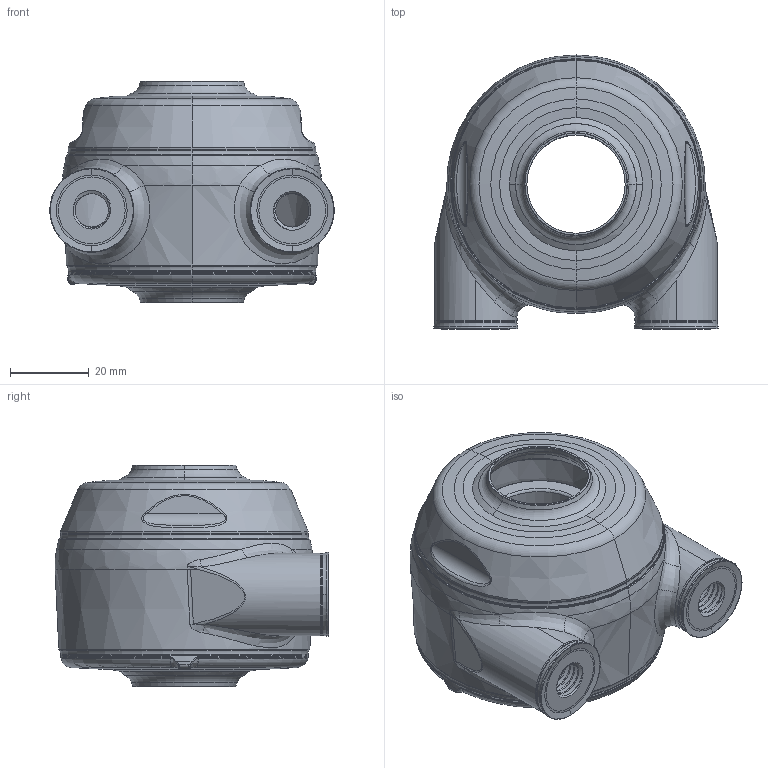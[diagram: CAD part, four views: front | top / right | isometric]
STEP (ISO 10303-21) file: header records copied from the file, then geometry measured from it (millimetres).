
FILE_DESCRIPTION (( 'STEP AP203' ), '1' );
FILE_NAME ('XBTBC52(Blue)-SSB2540(Front)-OM(Blue)-OS(Blue)_Shell.step', '2020-08-04T17:03:11', ( '' ), ( '' ), 'SwSTEP 2.0', 'SolidWorks 2019', '' );
FILE_SCHEMA (( 'CONFIG_CONTROL_DESIGN' ));
Length unit declared in the file: millimetre
Products named in the file (1): XBTBC52(Blue)-SSB2540(Front)-OM(Blue)-OS(Blue)_Shell
Bounding box: 72.4 x 69.69 x 56.34 mm (x, y, z)
Surface area: 30710.2 mm2 (no closed solid volume)
Topology: 0 solids, 19 shells, 281 faces, 880 edges, 606 vertices
Faces by surface type: torus 64, cylinder 64, cone 63, bspline 61, plane 19, sphere 10
Entity records: 18575 total; most frequent: CARTESIAN_POINT 11319, DIRECTION 1475, ORIENTED_EDGE 1446, EDGE_CURVE 880, AXIS2_PLACEMENT_3D 654, VERTEX_POINT 606, CIRCLE 433, EDGE_LOOP 299
